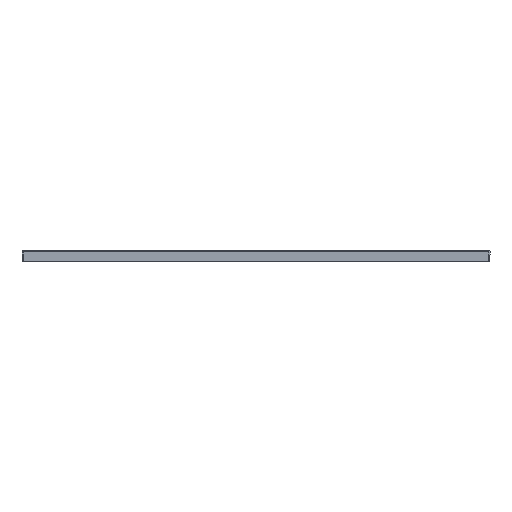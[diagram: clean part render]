
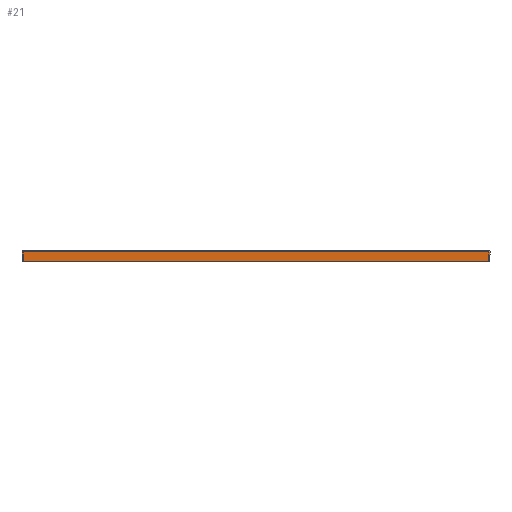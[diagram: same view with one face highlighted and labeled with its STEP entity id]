
A CAD part, front view. The second image highlights one B-rep face of the part: STEP entity #21.
In plain terms, the highlighted planar face has unit normal (0, -1, 0).
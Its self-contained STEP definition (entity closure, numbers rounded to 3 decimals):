
#21 = ADVANCED_FACE ( 'NONE', ( #483 ), #1308, .F. ) ;
#97 = LINE ( 'NONE', #279, #101 ) ;
#100 = DIRECTION ( 'NONE',  ( 0., 0., -1. ) ) ;
#101 = VECTOR ( 'NONE', #1456, 1000. ) ;
#126 = VECTOR ( 'NONE', #1572, 1000. ) ;
#127 = LINE ( 'NONE', #905, #126 ) ;
#171 = CARTESIAN_POINT ( 'NONE',  ( -340., -954., -0.5 ) ) ;
#256 = VECTOR ( 'NONE', #368, 1000. ) ;
#261 = LINE ( 'NONE', #1438, #256 ) ;
#279 = CARTESIAN_POINT ( 'NONE',  ( -340., -954., -14.5 ) ) ;
#324 = CARTESIAN_POINT ( 'NONE',  ( 340., -954., -14.5 ) ) ;
#368 = DIRECTION ( 'NONE',  ( 0., 0., -1. ) ) ;
#407 = VERTEX_POINT ( 'NONE', #1645 ) ;
#483 = FACE_OUTER_BOUND ( 'NONE', #1393, .T. ) ;
#505 = CARTESIAN_POINT ( 'NONE',  ( -340., -954., 1.5 ) ) ;
#617 = VECTOR ( 'NONE', #100, 1000. ) ;
#661 = ORIENTED_EDGE ( 'NONE', *, *, #1534, .T. ) ;
#686 = EDGE_CURVE ( 'NONE', #1555, #1106, #261, .T. ) ;
#732 = CARTESIAN_POINT ( 'NONE',  ( -340., -954., 1.5 ) ) ;
#881 = EDGE_CURVE ( 'NONE', #1555, #1408, #127, .T. ) ;
#905 = CARTESIAN_POINT ( 'NONE',  ( -340., -954., -0.5 ) ) ;
#916 = EDGE_CURVE ( 'NONE', #407, #1106, #97, .T. ) ;
#997 = ORIENTED_EDGE ( 'NONE', *, *, #881, .T. ) ;
#1106 = VERTEX_POINT ( 'NONE', #324 ) ;
#1143 = AXIS2_PLACEMENT_3D ( 'NONE', #505, #1312, #1700 ) ;
#1203 = ORIENTED_EDGE ( 'NONE', *, *, #686, .F. ) ;
#1275 = CARTESIAN_POINT ( 'NONE',  ( 340., -954., -0.5 ) ) ;
#1308 = PLANE ( 'NONE',  #1143 ) ;
#1312 = DIRECTION ( 'NONE',  ( 0., 1., 0. ) ) ;
#1322 = ORIENTED_EDGE ( 'NONE', *, *, #916, .T. ) ;
#1393 = EDGE_LOOP ( 'NONE', ( #1203, #997, #661, #1322 ) ) ;
#1408 = VERTEX_POINT ( 'NONE', #171 ) ;
#1438 = CARTESIAN_POINT ( 'NONE',  ( 340., -954., 1.5 ) ) ;
#1456 = DIRECTION ( 'NONE',  ( 1., 0., 0. ) ) ;
#1534 = EDGE_CURVE ( 'NONE', #1408, #407, #1661, .T. ) ;
#1555 = VERTEX_POINT ( 'NONE', #1275 ) ;
#1572 = DIRECTION ( 'NONE',  ( -1., 0., 0. ) ) ;
#1645 = CARTESIAN_POINT ( 'NONE',  ( -340., -954., -14.5 ) ) ;
#1661 = LINE ( 'NONE', #732, #617 ) ;
#1700 = DIRECTION ( 'NONE',  ( 0., 0., 1. ) ) ;
